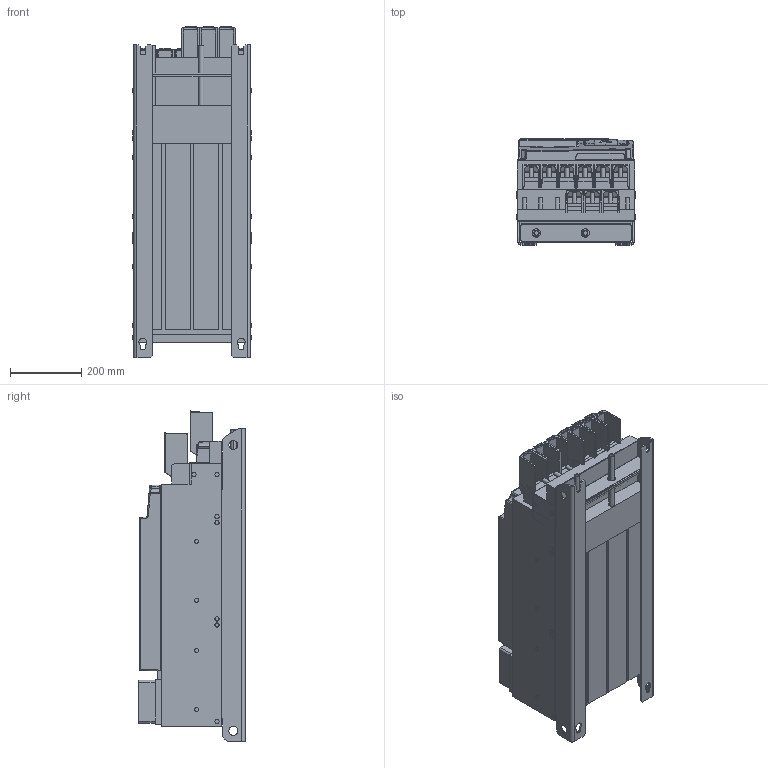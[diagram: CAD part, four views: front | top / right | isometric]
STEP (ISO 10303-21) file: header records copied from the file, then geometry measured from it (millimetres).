
FILE_DESCRIPTION (( 'STEP AP214' ), '1' );
FILE_NAME ('F6-8TW0-A031.STEP', '2021-03-01T14:32:52', ( '' ), ( '' ), 'SwSTEP 2.0', 'SolidWorks 2019', '' );
FILE_SCHEMA (( 'AUTOMOTIVE_DESIGN' ));
Length unit declared in the file: millimetre
Products named in the file (13): 10063897_000; 10063199_000; 10059765_000; 10063225_000; 10059763_000; 10038044_000_Kundemodell; F6-8TW0-A031; 10063887_000_F6-8 Leistungsteil TW0 (Kundenmodell + BW); 10063180_000; 10047771_000_Kundenmodell; 10059764_000_Blindabdeckung (Kundenmodell); 10035736_000_Kundenmodell; 10040552_000_Kundenmodell
Assembly tree (12 placements, depth 4):
  F6-8TW0-A031
    10063887_000_F6-8 Leistungsteil TW0 (Kundenmodell + BW)
      10038044_000_Kundemodell
        10063180_000
      10063897_000
    10040552_000_Kundenmodell
      10047771_000_Kundenmodell
        10063225_000
      10063199_000
    10035736_000_Kundenmodell
      10059764_000_Blindabdeckung (Kundenmodell)
        10059765_000
      10059763_000
Bounding box: 335.5 x 296.9 x 926.37 mm (x, y, z)
Volume: 65159654.4 mm3; surface area: 3063132.5 mm2
Topology: 6 solids, 30 shells, 2943 faces, 7469 edges, 4613 vertices
Faces by surface type: plane 1575, cylinder 814, bspline 227, sphere 154, cone 104, torus 69
Entity records: 94438 total; most frequent: CARTESIAN_POINT 24877, ORIENTED_EDGE 14716, DIRECTION 13723, EDGE_CURVE 7358, VECTOR 4807, LINE 4807, VERTEX_POINT 4610, AXIS2_PLACEMENT_3D 4458
